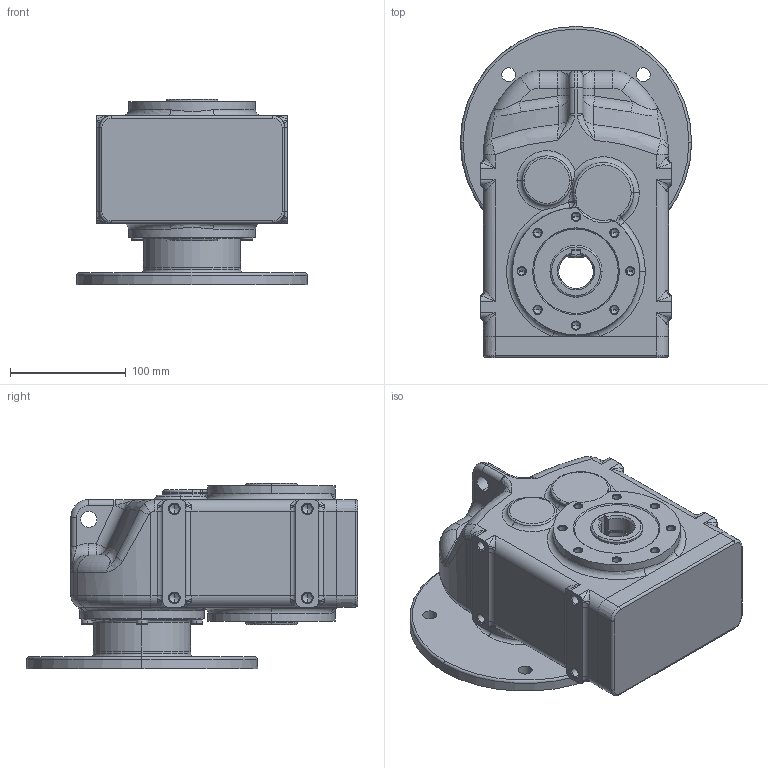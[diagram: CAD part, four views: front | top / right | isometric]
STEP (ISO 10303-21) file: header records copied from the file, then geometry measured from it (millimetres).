
FILE_DESCRIPTION (( 'STEP AP214' ), '1' );
FILE_NAME ('tnc12-f165-ap80.STEP', '2009-09-25T08:20:42', ( '' ), ( '' ), 'SwSTEP 2.0', 'SolidWorks 2003240', '' );
FILE_SCHEMA (( 'AUTOMOTIVE_DESIGN' ));
Length unit declared in the file: millimetre
Products named in the file (4): tnc12-f165-ap80; Pøíruba MRT80 kulatá _130-165-188; D6912_Šroub DIN 6912 - M6x20; Skøíò TNC1_Skøíò TNC12 AP80
Assembly tree (8 placements, depth 2):
  tnc12-f165-ap80
    D6912_Šroub DIN 6912 - M6x20  x6
    Pøíruba MRT80 kulatá _130-165-188
    Skøíò TNC1_Skøíò TNC12 AP80
Bounding box: 200 x 286.5 x 160 mm (x, y, z)
Volume: 3897155.3 mm3; surface area: 271461.9 mm2
Topology: 8 solids, 8 shells, 846 faces, 1887 edges, 1030 vertices
Faces by surface type: cylinder 245, cone 241, plane 163, torus 112, bspline 80, sphere 5
Entity records: 80622 total; most frequent: CARTESIAN_POINT 65028, DIRECTION 3330, ORIENTED_EDGE 2946, EDGE_CURVE 1473, AXIS2_PLACEMENT_3D 1408, VERTEX_POINT 875, CIRCLE 816, EDGE_LOOP 744
